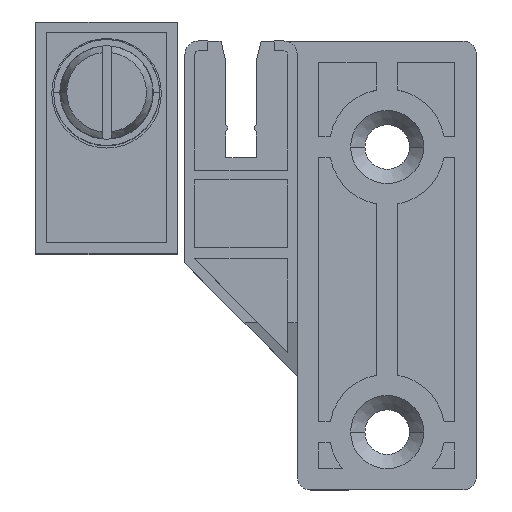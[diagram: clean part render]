
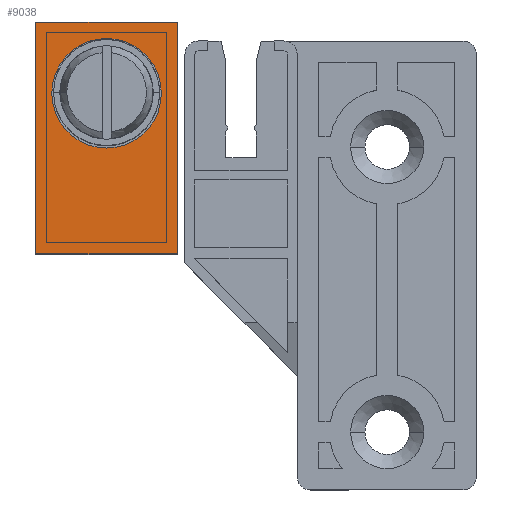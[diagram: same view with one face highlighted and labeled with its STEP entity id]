
A CAD part, top view. The second image highlights one B-rep face of the part: STEP entity #9038.
In plain terms, the highlighted planar face has unit normal (0, 0, 1).
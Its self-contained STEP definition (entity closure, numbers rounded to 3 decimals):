
#225 = EDGE_CURVE ( 'NONE', #1211, #2024, #3103, .T. ) ;
#253 = VECTOR ( 'NONE', #3221, 1000. ) ;
#510 = EDGE_CURVE ( 'NONE', #4590, #4053, #7723, .T. ) ;
#558 = ORIENTED_EDGE ( 'NONE', *, *, #510, .T. ) ;
#680 = FACE_OUTER_BOUND ( 'NONE', #2575, .T. ) ;
#816 = ORIENTED_EDGE ( 'NONE', *, *, #2873, .T. ) ;
#832 = DIRECTION ( 'NONE',  ( 0., 0., 1. ) ) ;
#1211 = VERTEX_POINT ( 'NONE', #6875 ) ;
#1251 = VECTOR ( 'NONE', #2522, 1000. ) ;
#1284 = DIRECTION ( 'NONE',  ( 1., 0., 0. ) ) ;
#1386 = AXIS2_PLACEMENT_3D ( 'NONE', #5411, #8751, #1284 ) ;
#1416 = LINE ( 'NONE', #5552, #4939 ) ;
#1948 = CIRCLE ( 'NONE', #8924, 6.15 ) ;
#2001 = DIRECTION ( 'NONE',  ( 0., 1., 0. ) ) ;
#2024 = VERTEX_POINT ( 'NONE', #4131 ) ;
#2052 = CARTESIAN_POINT ( 'NONE',  ( 7.95, -18., 189. ) ) ;
#2080 = CIRCLE ( 'NONE', #1386, 6.15 ) ;
#2522 = DIRECTION ( 'NONE',  ( -1., 0., 0. ) ) ;
#2575 = EDGE_LOOP ( 'NONE', ( #3178, #4663, #558, #816 ) ) ;
#2856 = EDGE_CURVE ( 'NONE', #6872, #4686, #1948, .T. ) ;
#2873 = EDGE_CURVE ( 'NONE', #4053, #1211, #7526, .T. ) ;
#3103 = LINE ( 'NONE', #4897, #253 ) ;
#3178 = ORIENTED_EDGE ( 'NONE', *, *, #225, .T. ) ;
#3221 = DIRECTION ( 'NONE',  ( 0., -1., 0. ) ) ;
#3232 = CARTESIAN_POINT ( 'NONE',  ( -7.95, 8., 189. ) ) ;
#3893 = ORIENTED_EDGE ( 'NONE', *, *, #2856, .F. ) ;
#3948 = CARTESIAN_POINT ( 'NONE',  ( 0., 0., 189. ) ) ;
#4047 = EDGE_LOOP ( 'NONE', ( #3893, #10650 ) ) ;
#4053 = VERTEX_POINT ( 'NONE', #10775 ) ;
#4131 = CARTESIAN_POINT ( 'NONE',  ( -7.95, -18., 189. ) ) ;
#4590 = VERTEX_POINT ( 'NONE', #2052 ) ;
#4663 = ORIENTED_EDGE ( 'NONE', *, *, #7232, .T. ) ;
#4686 = VERTEX_POINT ( 'NONE', #6464 ) ;
#4702 = FACE_BOUND ( 'NONE', #4047, .T. ) ;
#4708 = AXIS2_PLACEMENT_3D ( 'NONE', #3948, #4819, #9614 ) ;
#4785 = VECTOR ( 'NONE', #2001, 1000. ) ;
#4819 = DIRECTION ( 'NONE',  ( 0., 0., 1. ) ) ;
#4897 = CARTESIAN_POINT ( 'NONE',  ( -7.95, 8., 189. ) ) ;
#4939 = VECTOR ( 'NONE', #6371, 1000. ) ;
#5411 = CARTESIAN_POINT ( 'NONE',  ( 0., 0., 189. ) ) ;
#5552 = CARTESIAN_POINT ( 'NONE',  ( -7.95, -18., 189. ) ) ;
#6371 = DIRECTION ( 'NONE',  ( 1., 0., 0. ) ) ;
#6464 = CARTESIAN_POINT ( 'NONE',  ( -6.15, 0., 189. ) ) ;
#6757 = CARTESIAN_POINT ( 'NONE',  ( 0., 0., 189. ) ) ;
#6872 = VERTEX_POINT ( 'NONE', #9177 ) ;
#6875 = CARTESIAN_POINT ( 'NONE',  ( -7.95, 8., 189. ) ) ;
#6901 = CARTESIAN_POINT ( 'NONE',  ( 7.95, 8., 189. ) ) ;
#7232 = EDGE_CURVE ( 'NONE', #2024, #4590, #1416, .T. ) ;
#7526 = LINE ( 'NONE', #3232, #1251 ) ;
#7723 = LINE ( 'NONE', #6901, #4785 ) ;
#8129 = EDGE_CURVE ( 'NONE', #4686, #6872, #2080, .T. ) ;
#8399 = DIRECTION ( 'NONE',  ( 1., 0., 0. ) ) ;
#8751 = DIRECTION ( 'NONE',  ( 0., 0., 1. ) ) ;
#8924 = AXIS2_PLACEMENT_3D ( 'NONE', #6757, #832, #8399 ) ;
#9024 = PLANE ( 'NONE',  #4708 ) ;
#9038 = ADVANCED_FACE ( 'NONE', ( #680, #4702 ), #9024, .T. ) ;
#9177 = CARTESIAN_POINT ( 'NONE',  ( 6.15, 0., 189. ) ) ;
#9614 = DIRECTION ( 'NONE',  ( 1., 0., 0. ) ) ;
#10650 = ORIENTED_EDGE ( 'NONE', *, *, #8129, .F. ) ;
#10775 = CARTESIAN_POINT ( 'NONE',  ( 7.95, 8., 189. ) ) ;
